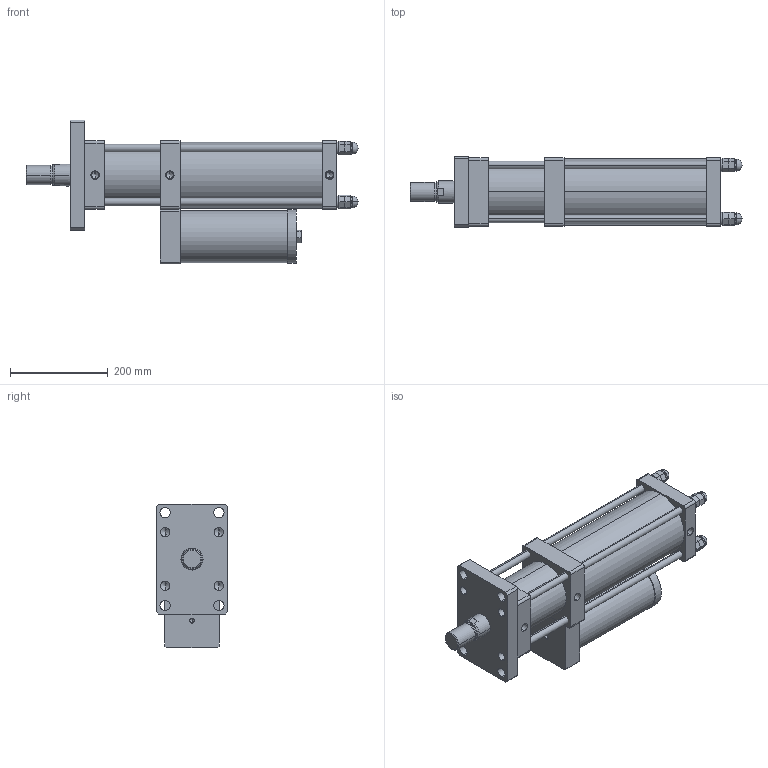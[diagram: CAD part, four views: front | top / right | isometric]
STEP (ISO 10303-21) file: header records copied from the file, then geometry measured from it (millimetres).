
FILE_DESCRIPTION (( 'STEP AP203' ), '1' );
FILE_NAME ('MPT-100-50-15-13T.STEP', '2016-03-11T05:43:44', ( 'WIN' ), ( '' ), 'SwSTEP 2.0', 'SolidWorks 2014', '' );
FILE_SCHEMA (( 'CONFIG_CONTROL_DESIGN' ));
Length unit declared in the file: millimetre
Products named in the file (1): MPT-100-50-15-13T
Bounding box: 679 x 145 x 294.5 mm (x, y, z)
Volume: 11476520.9 mm3; surface area: 723066.5 mm2
Topology: 13 solids, 13 shells, 400 faces, 980 edges, 555 vertices
Faces by surface type: plane 188, cylinder 80, torus 48, bspline 48, cone 36
Entity records: 12751 total; most frequent: CARTESIAN_POINT 3688, DIRECTION 1936, ORIENTED_EDGE 1812, EDGE_CURVE 906, AXIS2_PLACEMENT_3D 727, VERTEX_POINT 555, LINE 482, VECTOR 482
